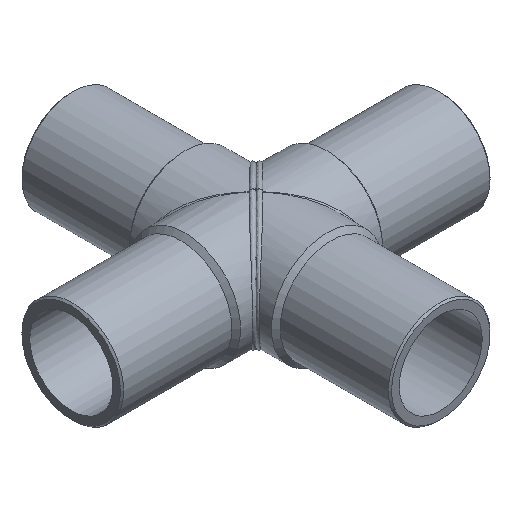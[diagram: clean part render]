
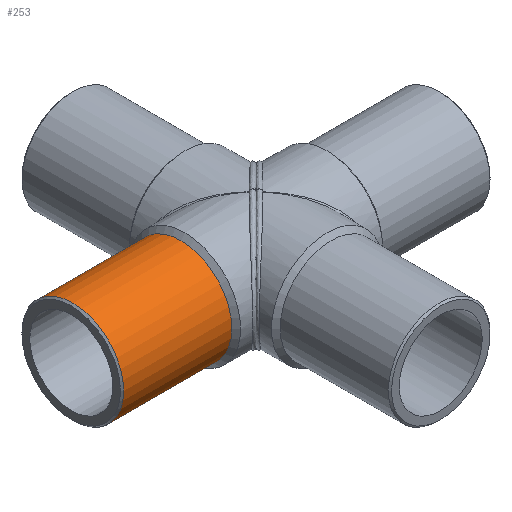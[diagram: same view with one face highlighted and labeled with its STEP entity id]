
A CAD part, isometric view. The second image highlights one B-rep face of the part: STEP entity #253.
In plain terms, the highlighted cylindrical face has radius 31.5 mm (diameter 63 mm), a full revolution.
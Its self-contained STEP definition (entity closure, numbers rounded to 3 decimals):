
#82=ORIENTED_EDGE('',*,*,#138,.T.);
#83=ORIENTED_EDGE('',*,*,#137,.T.);
#137=EDGE_CURVE('',#164,#164,#174,.T.);
#138=EDGE_CURVE('',#165,#165,#175,.T.);
#164=VERTEX_POINT('',#624);
#165=VERTEX_POINT('',#627);
#174=CIRCLE('',#291,31.5);
#175=CIRCLE('',#293,31.5);
#194=EDGE_LOOP('',(#82));
#195=EDGE_LOOP('',(#83));
#223=FACE_BOUND('',#194,.T.);
#224=FACE_BOUND('',#195,.T.);
#244=CYLINDRICAL_SURFACE('',#292,31.5);
#253=ADVANCED_FACE('',(#223,#224),#244,.T.);
#291=AXIS2_PLACEMENT_3D('',#623,#338,#339);
#292=AXIS2_PLACEMENT_3D('',#625,#340,#341);
#293=AXIS2_PLACEMENT_3D('',#626,#342,#343);
#338=DIRECTION('',(-1.,0.,0.));
#339=DIRECTION('',(0.,0.,1.));
#340=DIRECTION('',(-1.,0.,0.));
#341=DIRECTION('',(0.,0.,1.));
#342=DIRECTION('',(1.,0.,0.));
#343=DIRECTION('',(0.,0.,-1.));
#623=CARTESIAN_POINT('',(-46.5,0.,0.));
#624=CARTESIAN_POINT('',(-46.5,0.,31.5));
#625=CARTESIAN_POINT('',(-60.,0.,0.));
#626=CARTESIAN_POINT('',(-113.5,0.,0.));
#627=CARTESIAN_POINT('',(-113.5,0.,-31.5));
